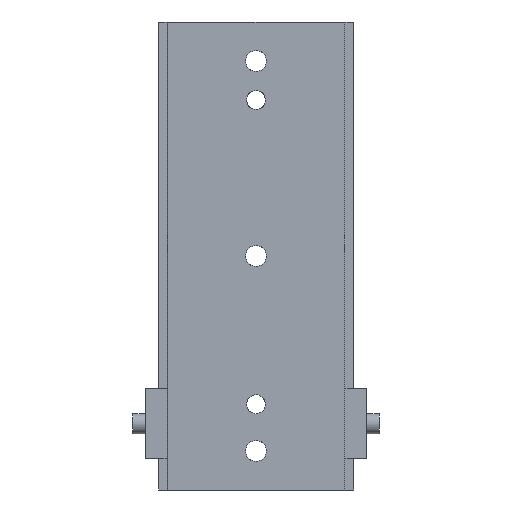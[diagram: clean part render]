
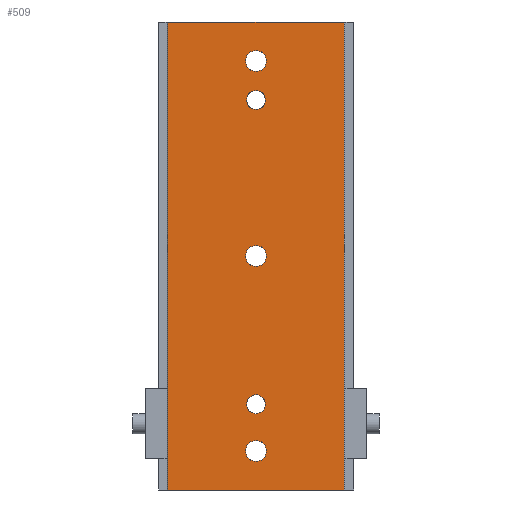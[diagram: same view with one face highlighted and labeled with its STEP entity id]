
A CAD part, front view. The second image highlights one B-rep face of the part: STEP entity #509.
In plain terms, the highlighted planar face has unit normal (0, -1, 0).
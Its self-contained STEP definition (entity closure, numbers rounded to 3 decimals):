
#77=CARTESIAN_POINT('Vertex',(-590.473,748.188,31.75)) ;
#80=CARTESIAN_POINT('Axis2P3D Location',(-590.473,748.188,25.)) ;
#84=CARTESIAN_POINT('Vertex',(-597.223,748.188,25.)) ;
#87=CARTESIAN_POINT('Axis2P3D Location',(-590.473,748.188,25.)) ;
#91=CARTESIAN_POINT('Vertex',(-590.473,748.188,18.25)) ;
#307=CARTESIAN_POINT('Axis2P3D Location',(-590.473,748.188,25.)) ;
#311=CARTESIAN_POINT('Vertex',(-583.723,748.188,25.)) ;
#314=CARTESIAN_POINT('Axis2P3D Location',(-590.473,748.188,25.)) ;
#328=CARTESIAN_POINT('Axis2P3D Location',(-646.973,748.188,300.)) ;
#333=CARTESIAN_POINT('Line Origine',(-590.473,748.188,0.)) ;
#337=CARTESIAN_POINT('Vertex',(-646.973,748.188,0.)) ;
#339=CARTESIAN_POINT('Vertex',(-533.973,748.188,0.)) ;
#342=CARTESIAN_POINT('Line Origine',(-533.973,748.188,150.)) ;
#346=CARTESIAN_POINT('Vertex',(-533.973,748.188,300.)) ;
#349=CARTESIAN_POINT('Line Origine',(-590.473,748.188,300.)) ;
#353=CARTESIAN_POINT('Vertex',(-646.973,748.188,300.)) ;
#356=CARTESIAN_POINT('Line Origine',(-646.973,748.188,150.)) ;
#367=CARTESIAN_POINT('Axis2P3D Location',(-590.473,748.188,250.)) ;
#371=CARTESIAN_POINT('Vertex',(-584.473,748.188,250.)) ;
#373=CARTESIAN_POINT('Vertex',(-590.473,748.188,244.)) ;
#376=CARTESIAN_POINT('Axis2P3D Location',(-590.473,748.188,250.)) ;
#380=CARTESIAN_POINT('Vertex',(-596.473,748.188,250.)) ;
#383=CARTESIAN_POINT('Axis2P3D Location',(-590.473,748.188,250.)) ;
#387=CARTESIAN_POINT('Vertex',(-590.473,748.188,256.)) ;
#390=CARTESIAN_POINT('Axis2P3D Location',(-590.473,748.188,250.)) ;
#401=CARTESIAN_POINT('Axis2P3D Location',(-590.473,748.188,55.)) ;
#405=CARTESIAN_POINT('Vertex',(-584.473,748.188,55.)) ;
#407=CARTESIAN_POINT('Vertex',(-590.473,748.188,49.)) ;
#410=CARTESIAN_POINT('Axis2P3D Location',(-590.473,748.188,55.)) ;
#414=CARTESIAN_POINT('Vertex',(-596.473,748.188,55.)) ;
#417=CARTESIAN_POINT('Axis2P3D Location',(-590.473,748.188,55.)) ;
#421=CARTESIAN_POINT('Vertex',(-590.473,748.188,61.)) ;
#424=CARTESIAN_POINT('Axis2P3D Location',(-590.473,748.188,55.)) ;
#435=CARTESIAN_POINT('Axis2P3D Location',(-590.473,748.188,275.)) ;
#439=CARTESIAN_POINT('Vertex',(-583.723,748.188,275.)) ;
#441=CARTESIAN_POINT('Vertex',(-590.473,748.188,268.25)) ;
#444=CARTESIAN_POINT('Axis2P3D Location',(-590.473,748.188,275.)) ;
#448=CARTESIAN_POINT('Vertex',(-597.223,748.188,275.)) ;
#451=CARTESIAN_POINT('Axis2P3D Location',(-590.473,748.188,275.)) ;
#455=CARTESIAN_POINT('Vertex',(-590.473,748.188,281.75)) ;
#458=CARTESIAN_POINT('Axis2P3D Location',(-590.473,748.188,275.)) ;
#469=CARTESIAN_POINT('Axis2P3D Location',(-590.473,748.188,150.)) ;
#473=CARTESIAN_POINT('Vertex',(-583.723,748.188,150.)) ;
#475=CARTESIAN_POINT('Vertex',(-590.473,748.188,143.25)) ;
#478=CARTESIAN_POINT('Axis2P3D Location',(-590.473,748.188,150.)) ;
#482=CARTESIAN_POINT('Vertex',(-597.223,748.188,150.)) ;
#485=CARTESIAN_POINT('Axis2P3D Location',(-590.473,748.188,150.)) ;
#489=CARTESIAN_POINT('Vertex',(-590.473,748.188,156.75)) ;
#492=CARTESIAN_POINT('Axis2P3D Location',(-590.473,748.188,150.)) ;
#81=DIRECTION('Axis2P3D Direction',(0.,-1.,0.)) ;
#88=DIRECTION('Axis2P3D Direction',(0.,-1.,0.)) ;
#308=DIRECTION('Axis2P3D Direction',(0.,-1.,0.)) ;
#315=DIRECTION('Axis2P3D Direction',(0.,-1.,0.)) ;
#329=DIRECTION('Axis2P3D Direction',(0.,1.,0.)) ;
#330=DIRECTION('Axis2P3D XDirection',(0.,-0.,1.)) ;
#334=DIRECTION('Vector Direction',(1.,0.,0.)) ;
#343=DIRECTION('Vector Direction',(0.,0.,-1.)) ;
#350=DIRECTION('Vector Direction',(1.,0.,0.)) ;
#357=DIRECTION('Vector Direction',(0.,0.,-1.)) ;
#368=DIRECTION('Axis2P3D Direction',(0.,1.,0.)) ;
#377=DIRECTION('Axis2P3D Direction',(0.,1.,0.)) ;
#384=DIRECTION('Axis2P3D Direction',(0.,1.,0.)) ;
#391=DIRECTION('Axis2P3D Direction',(0.,1.,0.)) ;
#402=DIRECTION('Axis2P3D Direction',(0.,1.,0.)) ;
#411=DIRECTION('Axis2P3D Direction',(0.,1.,0.)) ;
#418=DIRECTION('Axis2P3D Direction',(0.,1.,0.)) ;
#425=DIRECTION('Axis2P3D Direction',(0.,1.,0.)) ;
#436=DIRECTION('Axis2P3D Direction',(0.,1.,0.)) ;
#445=DIRECTION('Axis2P3D Direction',(0.,1.,0.)) ;
#452=DIRECTION('Axis2P3D Direction',(0.,1.,0.)) ;
#459=DIRECTION('Axis2P3D Direction',(0.,1.,0.)) ;
#470=DIRECTION('Axis2P3D Direction',(0.,1.,0.)) ;
#479=DIRECTION('Axis2P3D Direction',(0.,1.,0.)) ;
#486=DIRECTION('Axis2P3D Direction',(0.,1.,0.)) ;
#493=DIRECTION('Axis2P3D Direction',(0.,1.,0.)) ;
#82=AXIS2_PLACEMENT_3D('Circle Axis2P3D',#80,#81,$) ;
#89=AXIS2_PLACEMENT_3D('Circle Axis2P3D',#87,#88,$) ;
#309=AXIS2_PLACEMENT_3D('Circle Axis2P3D',#307,#308,$) ;
#316=AXIS2_PLACEMENT_3D('Circle Axis2P3D',#314,#315,$) ;
#331=AXIS2_PLACEMENT_3D('Plane Axis2P3D',#328,#329,#330) ;
#369=AXIS2_PLACEMENT_3D('Circle Axis2P3D',#367,#368,$) ;
#378=AXIS2_PLACEMENT_3D('Circle Axis2P3D',#376,#377,$) ;
#385=AXIS2_PLACEMENT_3D('Circle Axis2P3D',#383,#384,$) ;
#392=AXIS2_PLACEMENT_3D('Circle Axis2P3D',#390,#391,$) ;
#403=AXIS2_PLACEMENT_3D('Circle Axis2P3D',#401,#402,$) ;
#412=AXIS2_PLACEMENT_3D('Circle Axis2P3D',#410,#411,$) ;
#419=AXIS2_PLACEMENT_3D('Circle Axis2P3D',#417,#418,$) ;
#426=AXIS2_PLACEMENT_3D('Circle Axis2P3D',#424,#425,$) ;
#437=AXIS2_PLACEMENT_3D('Circle Axis2P3D',#435,#436,$) ;
#446=AXIS2_PLACEMENT_3D('Circle Axis2P3D',#444,#445,$) ;
#453=AXIS2_PLACEMENT_3D('Circle Axis2P3D',#451,#452,$) ;
#460=AXIS2_PLACEMENT_3D('Circle Axis2P3D',#458,#459,$) ;
#471=AXIS2_PLACEMENT_3D('Circle Axis2P3D',#469,#470,$) ;
#480=AXIS2_PLACEMENT_3D('Circle Axis2P3D',#478,#479,$) ;
#487=AXIS2_PLACEMENT_3D('Circle Axis2P3D',#485,#486,$) ;
#494=AXIS2_PLACEMENT_3D('Circle Axis2P3D',#492,#493,$) ;
#362=ORIENTED_EDGE('',*,*,#341,.T.) ;
#363=ORIENTED_EDGE('',*,*,#348,.F.) ;
#364=ORIENTED_EDGE('',*,*,#355,.F.) ;
#365=ORIENTED_EDGE('',*,*,#360,.T.) ;
#396=ORIENTED_EDGE('',*,*,#375,.T.) ;
#397=ORIENTED_EDGE('',*,*,#382,.T.) ;
#398=ORIENTED_EDGE('',*,*,#389,.T.) ;
#399=ORIENTED_EDGE('',*,*,#394,.T.) ;
#430=ORIENTED_EDGE('',*,*,#409,.T.) ;
#431=ORIENTED_EDGE('',*,*,#416,.T.) ;
#432=ORIENTED_EDGE('',*,*,#423,.T.) ;
#433=ORIENTED_EDGE('',*,*,#428,.T.) ;
#464=ORIENTED_EDGE('',*,*,#443,.T.) ;
#465=ORIENTED_EDGE('',*,*,#450,.T.) ;
#466=ORIENTED_EDGE('',*,*,#457,.T.) ;
#467=ORIENTED_EDGE('',*,*,#462,.T.) ;
#498=ORIENTED_EDGE('',*,*,#477,.T.) ;
#499=ORIENTED_EDGE('',*,*,#484,.T.) ;
#500=ORIENTED_EDGE('',*,*,#491,.T.) ;
#501=ORIENTED_EDGE('',*,*,#496,.T.) ;
#504=ORIENTED_EDGE('',*,*,#313,.T.) ;
#505=ORIENTED_EDGE('',*,*,#93,.T.) ;
#506=ORIENTED_EDGE('',*,*,#86,.T.) ;
#507=ORIENTED_EDGE('',*,*,#318,.T.) ;
#400=FACE_BOUND('',#395,.T.) ;
#434=FACE_BOUND('',#429,.T.) ;
#468=FACE_BOUND('',#463,.T.) ;
#502=FACE_BOUND('',#497,.T.) ;
#508=FACE_BOUND('',#503,.T.) ;
#335=VECTOR('Line Direction',#334,1.) ;
#344=VECTOR('Line Direction',#343,1.) ;
#351=VECTOR('Line Direction',#350,1.) ;
#358=VECTOR('Line Direction',#357,1.) ;
#509=ADVANCED_FACE('A945-01-1230-01-S-BC',(#366,#400,#434,#468,#502,#508),#332,.F.) ;
#83=CIRCLE('generated circle',#82,6.75) ;
#90=CIRCLE('generated circle',#89,6.75) ;
#310=CIRCLE('generated circle',#309,6.75) ;
#317=CIRCLE('generated circle',#316,6.75) ;
#370=CIRCLE('generated circle',#369,6.) ;
#379=CIRCLE('generated circle',#378,6.) ;
#386=CIRCLE('generated circle',#385,6.) ;
#393=CIRCLE('generated circle',#392,6.) ;
#404=CIRCLE('generated circle',#403,6.) ;
#413=CIRCLE('generated circle',#412,6.) ;
#420=CIRCLE('generated circle',#419,6.) ;
#427=CIRCLE('generated circle',#426,6.) ;
#438=CIRCLE('generated circle',#437,6.75) ;
#447=CIRCLE('generated circle',#446,6.75) ;
#454=CIRCLE('generated circle',#453,6.75) ;
#461=CIRCLE('generated circle',#460,6.75) ;
#472=CIRCLE('generated circle',#471,6.75) ;
#481=CIRCLE('generated circle',#480,6.75) ;
#488=CIRCLE('generated circle',#487,6.75) ;
#495=CIRCLE('generated circle',#494,6.75) ;
#86=EDGE_CURVE('',#85,#78,#83,.F.) ;
#93=EDGE_CURVE('',#92,#85,#90,.F.) ;
#313=EDGE_CURVE('',#312,#92,#310,.F.) ;
#318=EDGE_CURVE('',#78,#312,#317,.F.) ;
#341=EDGE_CURVE('',#338,#340,#336,.T.) ;
#348=EDGE_CURVE('',#347,#340,#345,.T.) ;
#355=EDGE_CURVE('',#354,#347,#352,.T.) ;
#360=EDGE_CURVE('',#354,#338,#359,.T.) ;
#375=EDGE_CURVE('',#372,#374,#370,.T.) ;
#382=EDGE_CURVE('',#374,#381,#379,.T.) ;
#389=EDGE_CURVE('',#381,#388,#386,.T.) ;
#394=EDGE_CURVE('',#388,#372,#393,.T.) ;
#409=EDGE_CURVE('',#406,#408,#404,.T.) ;
#416=EDGE_CURVE('',#408,#415,#413,.T.) ;
#423=EDGE_CURVE('',#415,#422,#420,.T.) ;
#428=EDGE_CURVE('',#422,#406,#427,.T.) ;
#443=EDGE_CURVE('',#440,#442,#438,.T.) ;
#450=EDGE_CURVE('',#442,#449,#447,.T.) ;
#457=EDGE_CURVE('',#449,#456,#454,.T.) ;
#462=EDGE_CURVE('',#456,#440,#461,.T.) ;
#477=EDGE_CURVE('',#474,#476,#472,.T.) ;
#484=EDGE_CURVE('',#476,#483,#481,.T.) ;
#491=EDGE_CURVE('',#483,#490,#488,.T.) ;
#496=EDGE_CURVE('',#490,#474,#495,.T.) ;
#361=EDGE_LOOP('',(#362,#363,#364,#365)) ;
#395=EDGE_LOOP('',(#396,#397,#398,#399)) ;
#429=EDGE_LOOP('',(#430,#431,#432,#433)) ;
#463=EDGE_LOOP('',(#464,#465,#466,#467)) ;
#497=EDGE_LOOP('',(#498,#499,#500,#501)) ;
#503=EDGE_LOOP('',(#504,#505,#506,#507)) ;
#366=FACE_OUTER_BOUND('',#361,.T.) ;
#336=LINE('Line',#333,#335) ;
#345=LINE('Line',#342,#344) ;
#352=LINE('Line',#349,#351) ;
#359=LINE('Line',#356,#358) ;
#332=PLANE('Plane',#331) ;
#78=VERTEX_POINT('',#77) ;
#85=VERTEX_POINT('',#84) ;
#92=VERTEX_POINT('',#91) ;
#312=VERTEX_POINT('',#311) ;
#338=VERTEX_POINT('',#337) ;
#340=VERTEX_POINT('',#339) ;
#347=VERTEX_POINT('',#346) ;
#354=VERTEX_POINT('',#353) ;
#372=VERTEX_POINT('',#371) ;
#374=VERTEX_POINT('',#373) ;
#381=VERTEX_POINT('',#380) ;
#388=VERTEX_POINT('',#387) ;
#406=VERTEX_POINT('',#405) ;
#408=VERTEX_POINT('',#407) ;
#415=VERTEX_POINT('',#414) ;
#422=VERTEX_POINT('',#421) ;
#440=VERTEX_POINT('',#439) ;
#442=VERTEX_POINT('',#441) ;
#449=VERTEX_POINT('',#448) ;
#456=VERTEX_POINT('',#455) ;
#474=VERTEX_POINT('',#473) ;
#476=VERTEX_POINT('',#475) ;
#483=VERTEX_POINT('',#482) ;
#490=VERTEX_POINT('',#489) ;
